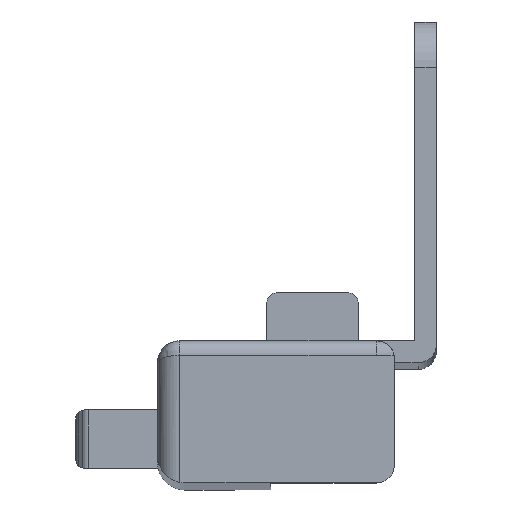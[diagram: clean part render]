
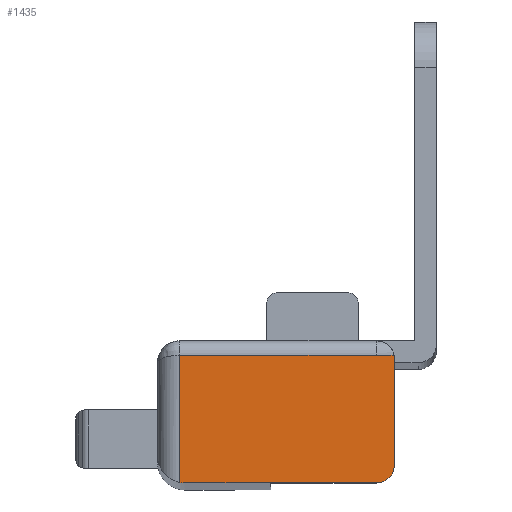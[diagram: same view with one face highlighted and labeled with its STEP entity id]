
A CAD part, top view. The second image highlights one B-rep face of the part: STEP entity #1435.
In plain terms, the highlighted planar face has unit normal (0, 0, 1).
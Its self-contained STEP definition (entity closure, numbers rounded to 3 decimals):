
#12 = VERTEX_POINT ( 'NONE', #99 ) ;
#14 = EDGE_CURVE ( 'NONE', #1921, #2011, #1019, .T. ) ;
#23 = AXIS2_PLACEMENT_3D ( 'NONE', #406, #410, #412 ) ;
#26 = ORIENTED_EDGE ( 'NONE', *, *, #1592, .F. ) ;
#99 = CARTESIAN_POINT ( 'NONE',  ( 12.98, 2.1, 132.46 ) ) ;
#116 = VECTOR ( 'NONE', #416, 1000. ) ;
#161 = DIRECTION ( 'NONE',  ( 1., 0., 0. ) ) ;
#182 = AXIS2_PLACEMENT_3D ( 'NONE', #534, #663, #702 ) ;
#194 = EDGE_LOOP ( 'NONE', ( #1950, #1460, #1616, #1022, #1951, #2163, #26, #2343 ) ) ;
#221 = LINE ( 'NONE', #369, #116 ) ;
#223 = CIRCLE ( 'NONE', #23, 1. ) ;
#289 = DIRECTION ( 'NONE',  ( 1., 0., 0. ) ) ;
#290 = EDGE_CURVE ( 'NONE', #12, #1653, #223, .T. ) ;
#301 = EDGE_CURVE ( 'NONE', #1894, #1653, #221, .T. ) ;
#369 = CARTESIAN_POINT ( 'NONE',  ( 13., 6.845, 132.46 ) ) ;
#383 = CARTESIAN_POINT ( 'NONE',  ( -2., 2.1, 132.46 ) ) ;
#384 = EDGE_CURVE ( 'NONE', #1649, #1106, #2363, .T. ) ;
#406 = CARTESIAN_POINT ( 'NONE',  ( 12., 1.9, 132.46 ) ) ;
#410 = DIRECTION ( 'NONE',  ( 0., 0., -1. ) ) ;
#412 = DIRECTION ( 'NONE',  ( -1., 0., 0. ) ) ;
#416 = DIRECTION ( 'NONE',  ( 0., 1., 0. ) ) ;
#469 = CARTESIAN_POINT ( 'NONE',  ( 1.5, -4.9, 132.46 ) ) ;
#534 = CARTESIAN_POINT ( 'NONE',  ( 1.5, -3.4, 132.46 ) ) ;
#551 = AXIS2_PLACEMENT_3D ( 'NONE', #1847, #1858, #1898 ) ;
#604 = CARTESIAN_POINT ( 'NONE',  ( 12., -4.9, 132.46 ) ) ;
#663 = DIRECTION ( 'NONE',  ( 0., 0., 1. ) ) ;
#688 = CARTESIAN_POINT ( 'NONE',  ( 0., 2.1, 132.46 ) ) ;
#702 = DIRECTION ( 'NONE',  ( 0., 1., 0. ) ) ;
#714 = DIRECTION ( 'NONE',  ( -1., 0., 0. ) ) ;
#721 = CARTESIAN_POINT ( 'NONE',  ( 18., -4.9, 132.46 ) ) ;
#748 = VECTOR ( 'NONE', #1992, 1000. ) ;
#796 = LINE ( 'NONE', #2307, #748 ) ;
#923 = CARTESIAN_POINT ( 'NONE',  ( 12., -3.9, 132.46 ) ) ;
#936 = CARTESIAN_POINT ( 'NONE',  ( 13., 1.9, 132.46 ) ) ;
#944 = VECTOR ( 'NONE', #289, 1000. ) ;
#1019 = LINE ( 'NONE', #688, #944 ) ;
#1022 = ORIENTED_EDGE ( 'NONE', *, *, #1300, .T. ) ;
#1103 = CARTESIAN_POINT ( 'NONE',  ( 13., -3.9, 132.46 ) ) ;
#1106 = VERTEX_POINT ( 'NONE', #469 ) ;
#1269 = VERTEX_POINT ( 'NONE', #1369 ) ;
#1300 = EDGE_CURVE ( 'NONE', #1649, #1894, #1786, .T. ) ;
#1369 = CARTESIAN_POINT ( 'NONE',  ( 1.2, -4.87, 132.46 ) ) ;
#1373 = PLANE ( 'NONE',  #551 ) ;
#1392 = EDGE_CURVE ( 'NONE', #1269, #1106, #1698, .T. ) ;
#1435 = ADVANCED_FACE ( 'NONE', ( #1663 ), #1373, .F. ) ;
#1460 = ORIENTED_EDGE ( 'NONE', *, *, #1392, .T. ) ;
#1557 = VECTOR ( 'NONE', #161, 1000. ) ;
#1565 = LINE ( 'NONE', #383, #1557 ) ;
#1592 = EDGE_CURVE ( 'NONE', #2011, #12, #1565, .T. ) ;
#1616 = ORIENTED_EDGE ( 'NONE', *, *, #384, .F. ) ;
#1649 = VERTEX_POINT ( 'NONE', #604 ) ;
#1653 = VERTEX_POINT ( 'NONE', #936 ) ;
#1663 = FACE_OUTER_BOUND ( 'NONE', #194, .T. ) ;
#1686 = DIRECTION ( 'NONE',  ( 0., 0., 1. ) ) ;
#1698 = CIRCLE ( 'NONE', #182, 1.5 ) ;
#1774 = CARTESIAN_POINT ( 'NONE',  ( 1.2, 2.1, 132.46 ) ) ;
#1786 = CIRCLE ( 'NONE', #1955, 1. ) ;
#1847 = CARTESIAN_POINT ( 'NONE',  ( 0., 26.2, 132.46 ) ) ;
#1858 = DIRECTION ( 'NONE',  ( 0., 0., -1. ) ) ;
#1880 = CARTESIAN_POINT ( 'NONE',  ( 12., 2.1, 132.46 ) ) ;
#1894 = VERTEX_POINT ( 'NONE', #1103 ) ;
#1898 = DIRECTION ( 'NONE',  ( -1., 0., 0. ) ) ;
#1921 = VERTEX_POINT ( 'NONE', #1774 ) ;
#1950 = ORIENTED_EDGE ( 'NONE', *, *, #2278, .F. ) ;
#1951 = ORIENTED_EDGE ( 'NONE', *, *, #301, .T. ) ;
#1955 = AXIS2_PLACEMENT_3D ( 'NONE', #923, #1686, #2249 ) ;
#1992 = DIRECTION ( 'NONE',  ( 0., 1., 0. ) ) ;
#2011 = VERTEX_POINT ( 'NONE', #1880 ) ;
#2163 = ORIENTED_EDGE ( 'NONE', *, *, #290, .F. ) ;
#2249 = DIRECTION ( 'NONE',  ( -1., 0., 0. ) ) ;
#2278 = EDGE_CURVE ( 'NONE', #1269, #1921, #796, .T. ) ;
#2307 = CARTESIAN_POINT ( 'NONE',  ( 1.2, 14.013, 132.46 ) ) ;
#2333 = VECTOR ( 'NONE', #714, 1000. ) ;
#2343 = ORIENTED_EDGE ( 'NONE', *, *, #14, .F. ) ;
#2363 = LINE ( 'NONE', #721, #2333 ) ;
